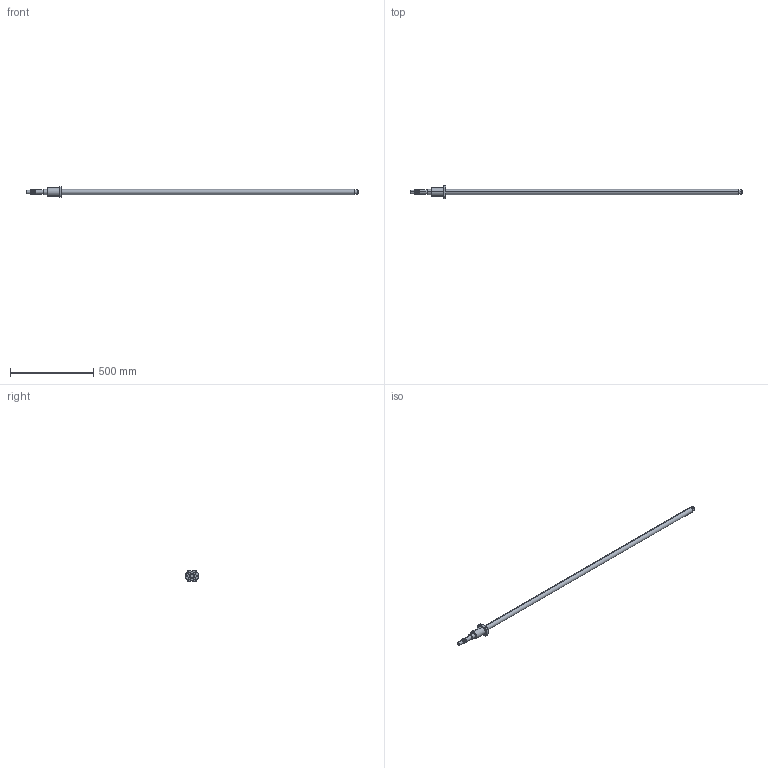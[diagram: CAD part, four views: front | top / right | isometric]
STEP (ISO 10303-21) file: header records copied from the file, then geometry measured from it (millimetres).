
FILE_DESCRIPTION (( 'STEP AP214' ), '1' );
FILE_NAME ('7.3013 STNUR3210-DFC7-2000mm.STEP', '2026-03-10T08:16:59', ( '' ), ( '' ), 'SwSTEP 2.0', 'SolidWorks 2025', '' );
FILE_SCHEMA (( 'AUTOMOTIVE_DESIGN' ));
Length unit declared in the file: millimetre
Products named in the file (3): 7.3101 STNUR3210T4D; 7.3013 STNUR3210-DFC7-2000mm; 7.3038 TCR3210-FC7
Assembly tree (2 placements, depth 2):
  7.3013 STNUR3210-DFC7-2000mm
    7.3038 TCR3210-FC7
    7.3101 STNUR3210T4D
Bounding box: 2000 x 79.74 x 62 mm (x, y, z)
Volume: 1688222.5 mm3; surface area: 232847.9 mm2
Topology: 2 solids, 2 shells, 646 faces, 1817 edges, 1205 vertices
Faces by surface type: bspline 428, cylinder 105, plane 98, cone 15
Entity records: 35997 total; most frequent: CARTESIAN_POINT 21596, ORIENTED_EDGE 3634, EDGE_CURVE 1817, DIRECTION 1381, VERTEX_POINT 1205, B_SPLINE_CURVE_WITH_KNOTS 905, VECTOR 745, LINE 745
